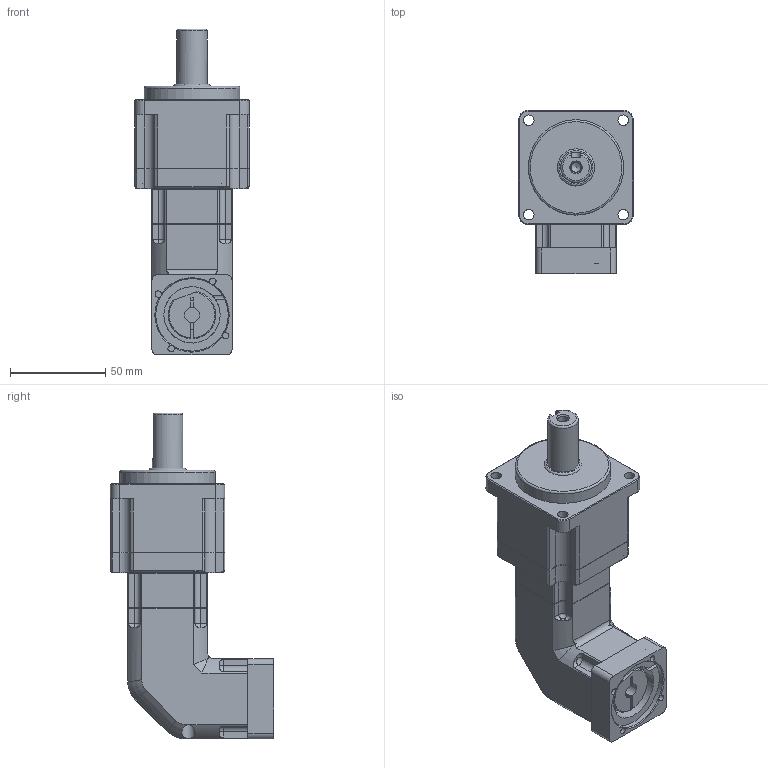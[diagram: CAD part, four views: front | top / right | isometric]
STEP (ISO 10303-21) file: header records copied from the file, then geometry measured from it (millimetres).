
FILE_DESCRIPTION((''),'2;1');
FILE_NAME('C:\Users\nagyu\Desktop\유성감속기-진행자료\도면\3D\2. 홈페이지용 3D 도면 (ipt)\외부도\SPL060\SPL060D (2 STAGE-KEY-A).stp','2012-07-24T14:39:39',('nagyu'),(''),'Autodesk Inventor 2012','Autodesk Inventor 2012','');
FILE_SCHEMA(('AUTOMOTIVE_DESIGN { 1 0 10303 214 1 1 1 1 }'));
Length unit declared in the file: millimetre
Products named in the file (2): SPL060D  (2 STAGE-KEY-A).iam (대체 세부 수준1); SPL060D  (2 STAGE-KEY-A)_대체_1
Assembly tree (1 placements, depth 2):
  SPL060D  (2 STAGE-KEY-A).iam (대체 세부 수준1)
    SPL060D  (2 STAGE-KEY-A)_대체_1
Bounding box: 60 x 85.5 x 170.8 mm (x, y, z)
Volume: 305982 mm3; surface area: 69601.2 mm2
Topology: 5 solids, 5 shells, 422 faces, 1059 edges, 669 vertices
Faces by surface type: plane 187, cylinder 150, cone 70, bspline 12, torus 3
Full cylindrical faces by diameter (mm): 2.459 x4, 3.3 x4, 3.4 x4, 4 x4, 4.5 x4, 5 x2, 5.5 x5, 5.9 x2, 6 x6, 8 x5, 15 x1, 16 x1, 22.5 x1, 24 x1, 29.5 x1, 30 x1, 31 x2, 32 x2, 36 x2, 37 x4, 37.6 x1, 38 x2, 50 x1
Entity records: 12972 total; most frequent: CARTESIAN_POINT 3197, DIRECTION 2009, ORIENTED_EDGE 1890, EDGE_CURVE 945, AXIS2_PLACEMENT_3D 794, VERTEX_POINT 633, EDGE_LOOP 560, FACE_OUTER_BOUND 422
